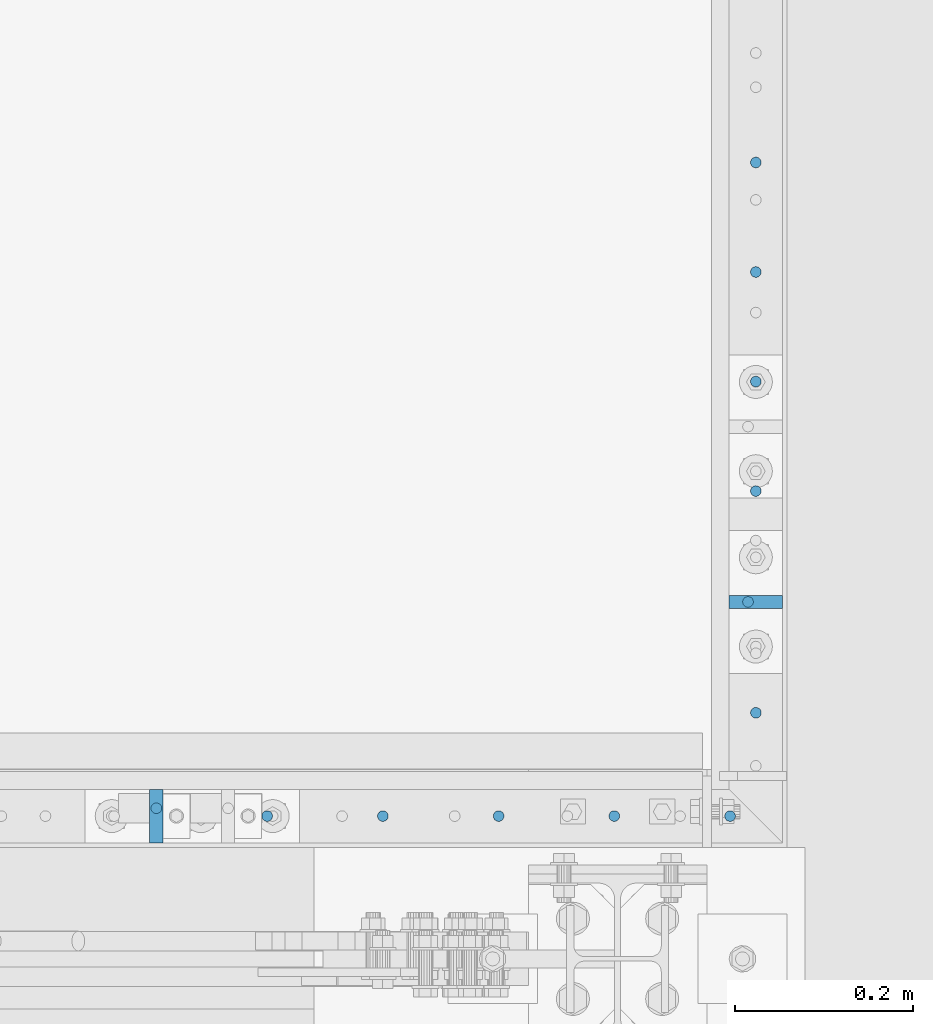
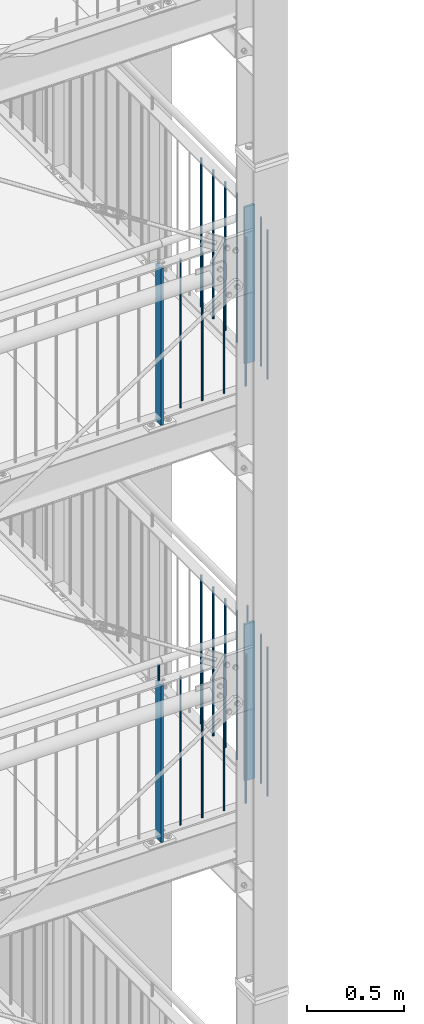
# One storey, part 91 of 831: 26 columns.
"""IFC2X3 building model written with IfcOpenShell, lengths in millimetres."""

from ifc_helpers import new_model, entity, si_unit, converted_unit, frame, origin, origin_with_axes, origin_2d, place, context, project, spatial, rectangle, circle, extrude, clip, halfspace, material, element, save


model = new_model("IFC2X3")

# Units and contexts
model_context = context("Model", 3, precision=1e-09, world=origin_with_axes())
ifc_project = project(units=[si_unit("LENGTHUNIT", "METRE", prefix="MILLI"), si_unit("AREAUNIT", "SQUARE_METRE"), si_unit("VOLUMEUNIT", "CUBIC_METRE"), converted_unit("PLANEANGLEUNIT", "DEGREE", entity("IfcPlaneAngleMeasure", 0.01745329), si_unit("PLANEANGLEUNIT", "RADIAN"), dimensions=[0, 0, 0, 0, 0, 0, 0])], contexts=[model_context])

# Site, building, storey
site_placement = place(None, origin_with_axes())
site = spatial("IfcSite", under=ifc_project, at=site_placement, Name="Site", CompositionType="ELEMENT")
building_placement = place(site_placement, origin_with_axes())
building = spatial("IfcBuilding", under=site, at=building_placement, Name="Struktur 1", CompositionType="ELEMENT")
storey_placement = place(building_placement, origin_with_axes())
storey = spatial("IfcBuildingStorey", under=building, at=storey_placement, Name="Default Storey", CompositionType="ELEMENT", Elevation=0.0)

# Columns
ifc_material = material(Name="S235JR")
column_1_placement = place(None, frame((9021.713402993, 5259.236043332, 9658.285281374), z_axis=(0.0, 0.0, 1.0), x_axis=(0.0, -1.0, 0.0)))
element("IfcColumn", 1, at=column_1_placement, inside=storey, material=ifc_material, Name="Railing_Picket_Landing#45", ObjectType="Railing_Picket_Landing#45", context=model_context, shape_type="Clipping", body=[
    clip(clip(extrude(circle(Radius=6.0, at=origin_2d()), origin(), (0.0, 0.0, -1.0), 965.770562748), halfspace(frame((5259.236043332, -9021.713402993, -13.486281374), z_axis=(0.0, 0.0, -1.0), x_axis=(0.0, -1.0, 0.0)), True)), halfspace(frame((5259.236043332, -9021.713402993, -952.284281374), z_axis=(0.0, 0.0, 1.0), x_axis=(0.0, 1.0, 0.0)), True)),
])
column_2_placement = place(None, frame((9021.713402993, 5136.486019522, 9658.285281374), z_axis=(0.0, 0.0, 1.0), x_axis=(0.0, -1.0, 0.0)))
element("IfcColumn", 2, at=column_2_placement, inside=storey, material=ifc_material, Name="Railing_Picket_Landing#46", ObjectType="Railing_Picket_Landing#46", context=model_context, shape_type="Clipping", body=[
    clip(clip(extrude(circle(Radius=6.0, at=origin_2d()), origin(), (0.0, 0.0, -1.0), 965.770562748), halfspace(frame((5136.486019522, -9021.713402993, -13.486281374), z_axis=(0.0, 0.0, -1.0), x_axis=(0.0, -1.0, 0.0)), True)), halfspace(frame((5136.486019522, -9021.713402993, -952.284281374), z_axis=(0.0, 0.0, 1.0), x_axis=(0.0, 1.0, 0.0)), True)),
])
column_3_placement = place(None, frame((9021.713402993, 5013.735995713, 9658.285281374), z_axis=(0.0, 0.0, 1.0), x_axis=(0.0, -1.0, 0.0)))
element("IfcColumn", 3, at=column_3_placement, inside=storey, material=ifc_material, Name="Railing_Picket_Landing#47", ObjectType="Railing_Picket_Landing#47", context=model_context, shape_type="Clipping", body=[
    clip(clip(extrude(circle(Radius=6.0, at=origin_2d()), origin(), (0.0, 0.0, -1.0), 965.770562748), halfspace(frame((5013.735995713, -9021.713402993, -13.486281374), z_axis=(0.0, 0.0, -1.0), x_axis=(0.0, -1.0, 0.0)), True)), halfspace(frame((5013.735995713, -9021.713402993, -952.284281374), z_axis=(0.0, 0.0, 1.0), x_axis=(0.0, 1.0, 0.0)), True)),
])
column_4_placement = place(None, frame((9021.713402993, 4890.985971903, 9658.285281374), z_axis=(0.0, 0.0, 1.0), x_axis=(0.0, -1.0, 0.0)))
element("IfcColumn", 4, at=column_4_placement, inside=storey, material=ifc_material, Name="Railing_Picket_Landing#48", ObjectType="Railing_Picket_Landing#48", context=model_context, shape_type="Clipping", body=[
    clip(clip(extrude(circle(Radius=6.0, at=origin_2d()), origin(), (0.0, 0.0, -1.0), 965.770562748), halfspace(frame((4890.985971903, -9021.713402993, -13.486281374), z_axis=(0.0, 0.0, -1.0), x_axis=(0.0, -1.0, 0.0)), True)), halfspace(frame((4890.985971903, -9021.713402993, -952.284281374), z_axis=(0.0, 0.0, 1.0), x_axis=(0.0, 1.0, 0.0)), True)),
])
column_5_placement = place(None, frame((9021.713402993, 4642.485971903, 9658.285281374), z_axis=(0.0, 0.0, 1.0), x_axis=(0.0, -1.0, 0.0)))
element("IfcColumn", 5, at=column_5_placement, inside=storey, material=ifc_material, Name="Railing_Picket_Landing#49", ObjectType="Railing_Picket_Landing#49", context=model_context, shape_type="Clipping", body=[
    clip(clip(extrude(circle(Radius=6.0, at=origin_2d()), origin(), (0.0, 0.0, -1.0), 965.770562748), halfspace(frame((4642.485971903, -9021.713402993, -13.486281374), z_axis=(0.0, 0.0, -1.0), x_axis=(0.0, -1.0, 0.0)), True)), halfspace(frame((4642.485971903, -9021.713402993, -952.284281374), z_axis=(0.0, 0.0, 1.0), x_axis=(0.0, 1.0, 0.0)), True)),
])
column_6_placement = place(None, frame((8992.778374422, 4526.736971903, 9658.285281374), z_axis=(0.0, 0.0, 1.0), x_axis=(-1.0, 0.0, 0.0)))
element("IfcColumn", 6, at=column_6_placement, inside=storey, material=ifc_material, Name="Railing_Picket_Landing#50", ObjectType="Railing_Picket_Landing#50", context=model_context, shape_type="Clipping", body=[
    clip(clip(extrude(circle(Radius=6.0, at=origin_2d()), origin(), (0.0, 0.0, -1.0), 965.770562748), halfspace(frame((8992.778374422, 4526.736971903, -13.486281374), z_axis=(0.0, 0.0, -1.0), x_axis=(1.0, 0.0, 0.0)), True)), halfspace(frame((8992.778374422, 4526.736971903, -952.284281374), z_axis=(0.0, 0.0, 1.0), x_axis=(-1.0, 0.0, 0.0)), True)),
])
column_7_placement = place(None, frame((8863.09434585, 4526.736971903, 9658.285281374), z_axis=(0.0, 0.0, 1.0), x_axis=(-1.0, 0.0, 0.0)))
element("IfcColumn", 7, at=column_7_placement, inside=storey, material=ifc_material, Name="Railing_Picket_Landing#51", ObjectType="Railing_Picket_Landing#51", context=model_context, shape_type="Clipping", body=[
    clip(clip(extrude(circle(Radius=6.0, at=origin_2d()), origin(), (0.0, 0.0, -1.0), 965.770562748), halfspace(frame((8863.09434585, 4526.736971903, -13.486281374), z_axis=(0.0, 0.0, -1.0), x_axis=(1.0, 0.0, 0.0)), True)), halfspace(frame((8863.09434585, 4526.736971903, -952.284281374), z_axis=(0.0, 0.0, 1.0), x_axis=(-1.0, 0.0, 0.0)), True)),
])
column_8_placement = place(None, frame((8733.410317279, 4526.736971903, 9658.285281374), z_axis=(0.0, 0.0, 1.0), x_axis=(-1.0, 0.0, 0.0)))
element("IfcColumn", 8, at=column_8_placement, inside=storey, material=ifc_material, Name="Railing_Picket_Landing#52", ObjectType="Railing_Picket_Landing#52", context=model_context, shape_type="Clipping", body=[
    clip(clip(extrude(circle(Radius=6.0, at=origin_2d()), origin(), (0.0, 0.0, -1.0), 965.770562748), halfspace(frame((8733.410317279, 4526.736971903, -13.486281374), z_axis=(0.0, 0.0, -1.0), x_axis=(1.0, 0.0, 0.0)), True)), halfspace(frame((8733.410317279, 4526.736971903, -952.284281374), z_axis=(0.0, 0.0, 1.0), x_axis=(-1.0, 0.0, 0.0)), True)),
])
column_9_placement = place(None, frame((8603.726288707, 4526.736971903, 9658.285281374), z_axis=(0.0, 0.0, 1.0), x_axis=(-1.0, 0.0, 0.0)))
element("IfcColumn", 9, at=column_9_placement, inside=storey, material=ifc_material, Name="Railing_Picket_Landing#53", ObjectType="Railing_Picket_Landing#53", context=model_context, shape_type="Clipping", body=[
    clip(clip(extrude(circle(Radius=6.0, at=origin_2d()), origin(), (0.0, 0.0, -1.0), 965.770562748), halfspace(frame((8603.726288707, 4526.736971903, -13.486281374), z_axis=(0.0, 0.0, -1.0), x_axis=(1.0, 0.0, 0.0)), True)), halfspace(frame((8603.726288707, 4526.736971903, -952.284281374), z_axis=(0.0, 0.0, 1.0), x_axis=(-1.0, 0.0, 0.0)), True)),
])
column_10_placement = place(None, frame((8474.042260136, 4526.736971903, 9658.285281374), z_axis=(0.0, 0.0, 1.0), x_axis=(-1.0, 0.0, 0.0)))
element("IfcColumn", 10, at=column_10_placement, inside=storey, material=ifc_material, Name="Railing_Picket_Landing#54", ObjectType="Railing_Picket_Landing#54", context=model_context, shape_type="Clipping", body=[
    clip(clip(extrude(circle(Radius=6.0, at=origin_2d()), origin(), (0.0, 0.0, -1.0), 965.770562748), halfspace(frame((8474.042260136, 4526.736971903, -13.486281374), z_axis=(0.0, 0.0, -1.0), x_axis=(1.0, 0.0, 0.0)), True)), halfspace(frame((8474.042260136, 4526.736971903, -952.284281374), z_axis=(0.0, 0.0, 1.0), x_axis=(-1.0, 0.0, 0.0)), True)),
])
column_11_placement = place(None, frame((9012.913402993, 4766.735971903, 9763.285281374), z_axis=(0.0, 0.0, 1.0), x_axis=(-1.0, 0.0, 0.0)))
element("IfcColumn", 11, at=column_11_placement, inside=storey, material=ifc_material, Name="Bar#7", ObjectType="Bar#7", context=model_context, shape_type="Clipping", body=[
    clip(clip(extrude(circle(Radius=6.0, at=origin_2d()), origin(), (0.0, 0.0, -1.0), 116.970562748), halfspace(frame((9012.913402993, 4766.735971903, -8.486281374), z_axis=(0.0, 0.0, -1.0), x_axis=(1.0, 0.0, 0.0)), True)), halfspace(frame((9012.913402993, 4766.735971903, -108.484281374), z_axis=(0.0, 0.0, 1.0), x_axis=(-1.0, 0.0, 0.0)), True)),
])
column_12_placement = place(None, frame((8349.792260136, 4535.536971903, 9763.285281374), z_axis=(0.0, 0.0, 1.0), x_axis=(0.0, 1.0, 0.0)))
element("IfcColumn", 12, at=column_12_placement, inside=storey, material=ifc_material, Name="Bar#8", ObjectType="Bar#8", context=model_context, shape_type="Clipping", body=[
    clip(clip(extrude(circle(Radius=6.0, at=origin_2d()), origin(), (0.0, 0.0, -1.0), 116.970562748), halfspace(frame((-4535.536971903, 8349.792260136, -8.486281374), z_axis=(0.0, 0.0, -1.0), x_axis=(0.0, 1.0, 0.0)), True)), halfspace(frame((-4535.536971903, 8349.792260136, -108.484281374), z_axis=(0.0, 0.0, 1.0), x_axis=(0.0, -1.0, 0.0)), True)),
])
column_13_placement = place(None, frame((9021.713402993, 4766.735971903, 9675.723292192), z_axis=(0.0, 0.0, 1.0), x_axis=(0.0, -1.0, 0.0)))
element("IfcColumn", 13, at=column_13_placement, inside=storey, material=ifc_material, Name="Railing_Post_Landing#7", ObjectType="Railing_Post_Landing#7", context=model_context, shape_type="Clipping", body=[
    clip(clip(extrude(rectangle(XDim=15.0, YDim=60.0, at=origin_2d()), origin(), (0.0, 0.0, -1.0), 1070.646584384), halfspace(frame((4766.735971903, -9021.713402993, -1019.722292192), z_axis=(0.0, 0.0, 1.0), x_axis=(0.0, 1.0, 0.0)), True)), halfspace(frame((4766.735971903, -9021.713402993, -30.924292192), z_axis=(0.0, 0.0, -1.0), x_axis=(0.0, -1.0, 0.0)), True)),
])
column_14_placement = place(None, frame((8349.792260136, 4526.736971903, 9675.723292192), z_axis=(0.0, 0.0, 1.0), x_axis=(-1.0, 0.0, 0.0)))
element("IfcColumn", 14, at=column_14_placement, inside=storey, material=ifc_material, Name="Railing_Post_Landing#8", ObjectType="Railing_Post_Landing#8", context=model_context, shape_type="Clipping", body=[
    clip(clip(extrude(rectangle(XDim=15.0, YDim=60.0, at=origin_2d()), origin(), (0.0, 0.0, -1.0), 1070.646584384), halfspace(frame((8349.792260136, 4526.736971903, -1019.722292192), z_axis=(0.0, 0.0, 1.0), x_axis=(-1.0, 0.0, 0.0)), True)), halfspace(frame((8349.792260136, 4526.736971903, -30.924292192), z_axis=(0.0, 0.0, -1.0), x_axis=(1.0, 0.0, 0.0)), True)),
])
column_15_placement = place(None, frame((9021.713402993, 4766.735971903, 12305.223292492), z_axis=(0.0, 0.0, 1.0), x_axis=(0.0, -1.0, 0.0)))
element("IfcColumn", 15, at=column_15_placement, inside=storey, material=ifc_material, Name="Railing_Post_Landing#7", ObjectType="Railing_Post_Landing#7", context=model_context, shape_type="Clipping", body=[
    clip(clip(extrude(rectangle(XDim=15.0, YDim=60.0, at=origin_2d()), origin(), (0.0, 0.0, -1.0), 1070.646584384), halfspace(frame((4766.735971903, -9021.713402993, -1019.722292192), z_axis=(0.0, 0.0, 1.0), x_axis=(0.0, 1.0, 0.0)), True)), halfspace(frame((4766.735971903, -9021.713402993, -30.924292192), z_axis=(0.0, 0.0, -1.0), x_axis=(0.0, -1.0, 0.0)), True)),
])
column_16_placement = place(None, frame((8349.792260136, 4526.736971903, 12305.223292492), z_axis=(0.0, 0.0, 1.0), x_axis=(-1.0, 0.0, 0.0)))
element("IfcColumn", 16, at=column_16_placement, inside=storey, material=ifc_material, Name="Railing_Post_Landing#8", ObjectType="Railing_Post_Landing#8", context=model_context, shape_type="Clipping", body=[
    clip(clip(extrude(rectangle(XDim=15.0, YDim=60.0, at=origin_2d()), origin(), (0.0, 0.0, -1.0), 1070.646584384), halfspace(frame((8349.792260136, 4526.736971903, -1019.722292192), z_axis=(0.0, 0.0, 1.0), x_axis=(-1.0, 0.0, 0.0)), True)), halfspace(frame((8349.792260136, 4526.736971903, -30.924292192), z_axis=(0.0, 0.0, -1.0), x_axis=(1.0, 0.0, 0.0)), True)),
])
column_17_placement = place(None, frame((9021.713402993, 5259.236043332, 12287.785281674), z_axis=(0.0, 0.0, 1.0), x_axis=(0.0, -1.0, 0.0)))
element("IfcColumn", 17, at=column_17_placement, inside=storey, material=ifc_material, Name="Railing_Picket_Landing#45", ObjectType="Railing_Picket_Landing#45", context=model_context, shape_type="Clipping", body=[
    clip(clip(extrude(circle(Radius=6.0, at=origin_2d()), origin(), (0.0, 0.0, -1.0), 965.770562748), halfspace(frame((5259.236043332, -9021.713402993, -13.486281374), z_axis=(0.0, 0.0, -1.0), x_axis=(0.0, -1.0, 0.0)), True)), halfspace(frame((5259.236043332, -9021.713402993, -952.284281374), z_axis=(0.0, 0.0, 1.0), x_axis=(0.0, 1.0, 0.0)), True)),
])
column_18_placement = place(None, frame((9021.713402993, 5136.486019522, 12287.785281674), z_axis=(0.0, 0.0, 1.0), x_axis=(0.0, -1.0, 0.0)))
element("IfcColumn", 18, at=column_18_placement, inside=storey, material=ifc_material, Name="Railing_Picket_Landing#46", ObjectType="Railing_Picket_Landing#46", context=model_context, shape_type="Clipping", body=[
    clip(clip(extrude(circle(Radius=6.0, at=origin_2d()), origin(), (0.0, 0.0, -1.0), 965.770562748), halfspace(frame((5136.486019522, -9021.713402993, -13.486281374), z_axis=(0.0, 0.0, -1.0), x_axis=(0.0, -1.0, 0.0)), True)), halfspace(frame((5136.486019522, -9021.713402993, -952.284281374), z_axis=(0.0, 0.0, 1.0), x_axis=(0.0, 1.0, 0.0)), True)),
])
column_19_placement = place(None, frame((9021.713402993, 5013.735995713, 12287.785281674), z_axis=(0.0, 0.0, 1.0), x_axis=(0.0, -1.0, 0.0)))
element("IfcColumn", 19, at=column_19_placement, inside=storey, material=ifc_material, Name="Railing_Picket_Landing#47", ObjectType="Railing_Picket_Landing#47", context=model_context, shape_type="Clipping", body=[
    clip(clip(extrude(circle(Radius=6.0, at=origin_2d()), origin(), (0.0, 0.0, -1.0), 965.770562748), halfspace(frame((5013.735995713, -9021.713402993, -13.486281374), z_axis=(0.0, 0.0, -1.0), x_axis=(0.0, -1.0, 0.0)), True)), halfspace(frame((5013.735995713, -9021.713402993, -952.284281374), z_axis=(0.0, 0.0, 1.0), x_axis=(0.0, 1.0, 0.0)), True)),
])
column_20_placement = place(None, frame((9021.713402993, 4890.985971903, 12287.785281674), z_axis=(0.0, 0.0, 1.0), x_axis=(0.0, -1.0, 0.0)))
element("IfcColumn", 20, at=column_20_placement, inside=storey, material=ifc_material, Name="Railing_Picket_Landing#48", ObjectType="Railing_Picket_Landing#48", context=model_context, shape_type="Clipping", body=[
    clip(clip(extrude(circle(Radius=6.0, at=origin_2d()), origin(), (0.0, 0.0, -1.0), 965.770562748), halfspace(frame((4890.985971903, -9021.713402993, -13.486281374), z_axis=(0.0, 0.0, -1.0), x_axis=(0.0, -1.0, 0.0)), True)), halfspace(frame((4890.985971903, -9021.713402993, -952.284281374), z_axis=(0.0, 0.0, 1.0), x_axis=(0.0, 1.0, 0.0)), True)),
])
column_21_placement = place(None, frame((9021.713402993, 4642.485971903, 12287.785281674), z_axis=(0.0, 0.0, 1.0), x_axis=(0.0, -1.0, 0.0)))
element("IfcColumn", 21, at=column_21_placement, inside=storey, material=ifc_material, Name="Railing_Picket_Landing#49", ObjectType="Railing_Picket_Landing#49", context=model_context, shape_type="Clipping", body=[
    clip(clip(extrude(circle(Radius=6.0, at=origin_2d()), origin(), (0.0, 0.0, -1.0), 965.770562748), halfspace(frame((4642.485971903, -9021.713402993, -13.486281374), z_axis=(0.0, 0.0, -1.0), x_axis=(0.0, -1.0, 0.0)), True)), halfspace(frame((4642.485971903, -9021.713402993, -952.284281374), z_axis=(0.0, 0.0, 1.0), x_axis=(0.0, 1.0, 0.0)), True)),
])
column_22_placement = place(None, frame((8992.778374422, 4526.736971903, 12287.785281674), z_axis=(0.0, 0.0, 1.0), x_axis=(-1.0, 0.0, 0.0)))
element("IfcColumn", 22, at=column_22_placement, inside=storey, material=ifc_material, Name="Railing_Picket_Landing#50", ObjectType="Railing_Picket_Landing#50", context=model_context, shape_type="Clipping", body=[
    clip(clip(extrude(circle(Radius=6.0, at=origin_2d()), origin(), (0.0, 0.0, -1.0), 965.770562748), halfspace(frame((8992.778374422, 4526.736971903, -13.486281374), z_axis=(0.0, 0.0, -1.0), x_axis=(1.0, 0.0, 0.0)), True)), halfspace(frame((8992.778374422, 4526.736971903, -952.284281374), z_axis=(0.0, 0.0, 1.0), x_axis=(-1.0, 0.0, 0.0)), True)),
])
column_23_placement = place(None, frame((8863.09434585, 4526.736971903, 12287.785281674), z_axis=(0.0, 0.0, 1.0), x_axis=(-1.0, 0.0, 0.0)))
element("IfcColumn", 23, at=column_23_placement, inside=storey, material=ifc_material, Name="Railing_Picket_Landing#51", ObjectType="Railing_Picket_Landing#51", context=model_context, shape_type="Clipping", body=[
    clip(clip(extrude(circle(Radius=6.0, at=origin_2d()), origin(), (0.0, 0.0, -1.0), 965.770562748), halfspace(frame((8863.09434585, 4526.736971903, -13.486281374), z_axis=(0.0, 0.0, -1.0), x_axis=(1.0, 0.0, 0.0)), True)), halfspace(frame((8863.09434585, 4526.736971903, -952.284281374), z_axis=(0.0, 0.0, 1.0), x_axis=(-1.0, 0.0, 0.0)), True)),
])
column_24_placement = place(None, frame((8733.410317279, 4526.736971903, 12287.785281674), z_axis=(0.0, 0.0, 1.0), x_axis=(-1.0, 0.0, 0.0)))
element("IfcColumn", 24, at=column_24_placement, inside=storey, material=ifc_material, Name="Railing_Picket_Landing#52", ObjectType="Railing_Picket_Landing#52", context=model_context, shape_type="Clipping", body=[
    clip(clip(extrude(circle(Radius=6.0, at=origin_2d()), origin(), (0.0, 0.0, -1.0), 965.770562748), halfspace(frame((8733.410317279, 4526.736971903, -13.486281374), z_axis=(0.0, 0.0, -1.0), x_axis=(1.0, 0.0, 0.0)), True)), halfspace(frame((8733.410317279, 4526.736971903, -952.284281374), z_axis=(0.0, 0.0, 1.0), x_axis=(-1.0, 0.0, 0.0)), True)),
])
column_25_placement = place(None, frame((8603.726288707, 4526.736971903, 12287.785281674), z_axis=(0.0, 0.0, 1.0), x_axis=(-1.0, 0.0, 0.0)))
element("IfcColumn", 25, at=column_25_placement, inside=storey, material=ifc_material, Name="Railing_Picket_Landing#53", ObjectType="Railing_Picket_Landing#53", context=model_context, shape_type="Clipping", body=[
    clip(clip(extrude(circle(Radius=6.0, at=origin_2d()), origin(), (0.0, 0.0, -1.0), 965.770562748), halfspace(frame((8603.726288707, 4526.736971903, -13.486281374), z_axis=(0.0, 0.0, -1.0), x_axis=(1.0, 0.0, 0.0)), True)), halfspace(frame((8603.726288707, 4526.736971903, -952.284281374), z_axis=(0.0, 0.0, 1.0), x_axis=(-1.0, 0.0, 0.0)), True)),
])
column_26_placement = place(None, frame((8474.042260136, 4526.736971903, 12287.785281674), z_axis=(0.0, 0.0, 1.0), x_axis=(-1.0, 0.0, 0.0)))
element("IfcColumn", 26, at=column_26_placement, inside=storey, material=ifc_material, Name="Railing_Picket_Landing#54", ObjectType="Railing_Picket_Landing#54", context=model_context, shape_type="Clipping", body=[
    clip(clip(extrude(circle(Radius=6.0, at=origin_2d()), origin(), (0.0, 0.0, -1.0), 965.770562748), halfspace(frame((8474.042260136, 4526.736971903, -13.486281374), z_axis=(0.0, 0.0, -1.0), x_axis=(1.0, 0.0, 0.0)), True)), halfspace(frame((8474.042260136, 4526.736971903, -952.284281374), z_axis=(0.0, 0.0, 1.0), x_axis=(-1.0, 0.0, 0.0)), True)),
])

save(model, "model.ifc")
